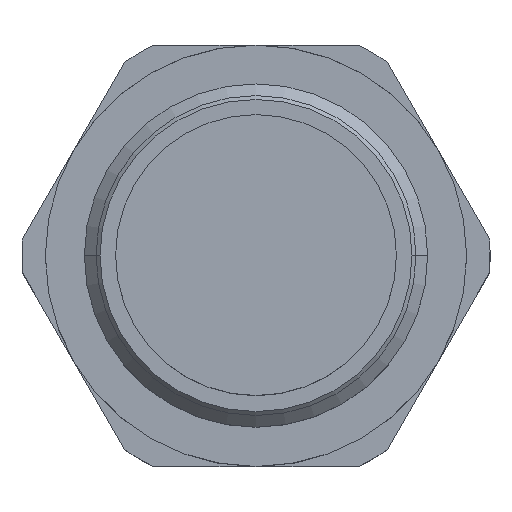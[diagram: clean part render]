
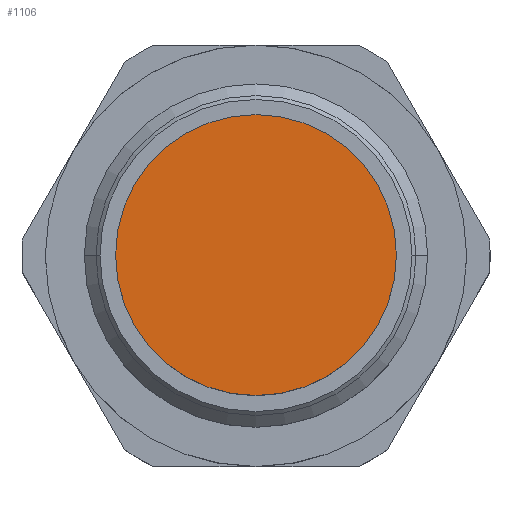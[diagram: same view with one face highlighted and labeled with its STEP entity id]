
A CAD part, top view. The second image highlights one B-rep face of the part: STEP entity #1106.
In plain terms, the highlighted planar face has unit normal (0, 0, 1).
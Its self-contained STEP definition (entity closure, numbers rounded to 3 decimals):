
#34=CARTESIAN_POINT('',(0.,0.,27.));
#35=DIRECTION('',(0.,0.,1.));
#36=DIRECTION('',(1.,0.,0.));
#37=AXIS2_PLACEMENT_3D('',#34,#35,#36);
#49=CARTESIAN_POINT('',(0.,0.,27.));
#50=DIRECTION('',(0.,0.,-1.));
#51=DIRECTION('',(1.,0.,0.));
#52=AXIS2_PLACEMENT_3D('',#49,#50,#51);
#945=CARTESIAN_POINT('',(9.,0.,27.));
#947=VERTEX_POINT('',#945);
#987=CARTESIAN_POINT('',(-9.,0.,27.));
#989=VERTEX_POINT('',#987);
#1095=CARTESIAN_POINT('',(0.,0.,27.));
#1096=DIRECTION('',(0.,0.,-1.));
#1097=DIRECTION('',(1.,0.,0.));
#1098=AXIS2_PLACEMENT_3D('',#1095,#1096,#1097);
#1099=PLANE('',#1098);
#1101=ORIENTED_EDGE('',*,*,#1100,.F.);
#1103=ORIENTED_EDGE('',*,*,#1102,.T.);
#1104=EDGE_LOOP('',(#1101,#1103));
#1105=FACE_OUTER_BOUND('',#1104,.F.);
#38=CIRCLE('',#37,9.);
#53=CIRCLE('',#52,9.);
#1100=EDGE_CURVE('',#947,#989,#38,.T.);
#1102=EDGE_CURVE('',#947,#989,#53,.T.);
#1106=ADVANCED_FACE('',(#1105),#1099,.F.);
